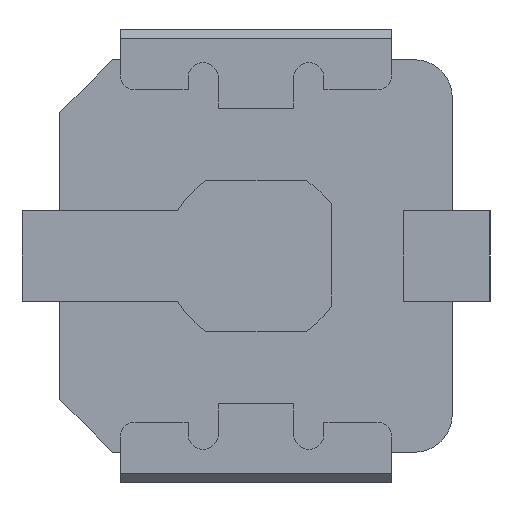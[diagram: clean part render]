
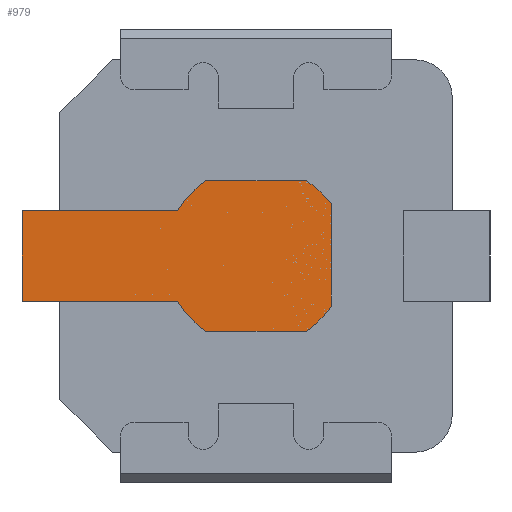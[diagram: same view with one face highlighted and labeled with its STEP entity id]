
A CAD part, front view. The second image highlights one B-rep face of the part: STEP entity #979.
In plain terms, the highlighted planar face has unit normal (0, -1, 0).
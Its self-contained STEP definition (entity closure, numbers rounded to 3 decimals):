
#67 = ORIENTED_EDGE ( 'NONE', *, *, #2326, .T. ) ;
#88 = LINE ( 'NONE', #2034, #2476 ) ;
#111 = VERTEX_POINT ( 'NONE', #1367 ) ;
#172 = VERTEX_POINT ( 'NONE', #1574 ) ;
#222 = EDGE_CURVE ( 'NONE', #2774, #1808, #88, .T. ) ;
#225 = VERTEX_POINT ( 'NONE', #2022 ) ;
#274 = LINE ( 'NONE', #348, #1429 ) ;
#308 = LINE ( 'NONE', #1605, #2679 ) ;
#324 = CARTESIAN_POINT ( 'NONE',  ( -1.55, 0., 0.3 ) ) ;
#339 = LINE ( 'NONE', #2552, #864 ) ;
#348 = CARTESIAN_POINT ( 'NONE',  ( -0.332, 0., -0.5 ) ) ;
#402 = EDGE_CURVE ( 'NONE', #1715, #1568, #274, .T. ) ;
#405 = ORIENTED_EDGE ( 'NONE', *, *, #563, .T. ) ;
#430 = CARTESIAN_POINT ( 'NONE',  ( -0.52, 0., -0.3 ) ) ;
#449 = CIRCLE ( 'NONE', #1312, 0.6 ) ;
#472 = LINE ( 'NONE', #1523, #2858 ) ;
#487 = DIRECTION ( 'NONE',  ( -1., 0., 0. ) ) ;
#555 = ORIENTED_EDGE ( 'NONE', *, *, #1244, .T. ) ;
#563 = EDGE_CURVE ( 'NONE', #2515, #1527, #985, .T. ) ;
#739 = ORIENTED_EDGE ( 'NONE', *, *, #2251, .T. ) ;
#754 = PLANE ( 'NONE',  #2346 ) ;
#819 = DIRECTION ( 'NONE',  ( 0., -1., 0. ) ) ;
#832 = CARTESIAN_POINT ( 'NONE',  ( 0.5, 0., 0.349 ) ) ;
#852 = DIRECTION ( 'NONE',  ( -0.707, 0., 0.707 ) ) ;
#864 = VECTOR ( 'NONE', #2112, 1000. ) ;
#898 = DIRECTION ( 'NONE',  ( 0., -1., 0. ) ) ;
#979 = ADVANCED_FACE ( 'NONE', ( #1739 ), #754, .T. ) ;
#985 = CIRCLE ( 'NONE', #2000, 0.6 ) ;
#1073 = CARTESIAN_POINT ( 'NONE',  ( 0.424, 0., 0.424 ) ) ;
#1108 = ORIENTED_EDGE ( 'NONE', *, *, #222, .T. ) ;
#1135 = DIRECTION ( 'NONE',  ( 0., -1., 0. ) ) ;
#1186 = ORIENTED_EDGE ( 'NONE', *, *, #2754, .T. ) ;
#1194 = ORIENTED_EDGE ( 'NONE', *, *, #1344, .T. ) ;
#1244 = EDGE_CURVE ( 'NONE', #1527, #225, #472, .T. ) ;
#1259 = VERTEX_POINT ( 'NONE', #2025 ) ;
#1312 = AXIS2_PLACEMENT_3D ( 'NONE', #2228, #819, #2456 ) ;
#1344 = EDGE_CURVE ( 'NONE', #111, #1259, #339, .T. ) ;
#1367 = CARTESIAN_POINT ( 'NONE',  ( -0.52, 0., 0.3 ) ) ;
#1371 = DIRECTION ( 'NONE',  ( 1., 0., 0. ) ) ;
#1379 = EDGE_CURVE ( 'NONE', #1568, #2331, #1955, .T. ) ;
#1429 = VECTOR ( 'NONE', #2195, 1000. ) ;
#1469 = AXIS2_PLACEMENT_3D ( 'NONE', #1886, #898, #1371 ) ;
#1523 = CARTESIAN_POINT ( 'NONE',  ( -0.332, 0., 0.5 ) ) ;
#1527 = VERTEX_POINT ( 'NONE', #2623 ) ;
#1562 = AXIS2_PLACEMENT_3D ( 'NONE', #1801, #1135, #2095 ) ;
#1568 = VERTEX_POINT ( 'NONE', #2313 ) ;
#1574 = CARTESIAN_POINT ( 'NONE',  ( 0.5, 0., 0.349 ) ) ;
#1605 = CARTESIAN_POINT ( 'NONE',  ( 0.5, 0., -0.332 ) ) ;
#1657 = CARTESIAN_POINT ( 'NONE',  ( 0., 0., 0. ) ) ;
#1715 = VERTEX_POINT ( 'NONE', #1734 ) ;
#1734 = CARTESIAN_POINT ( 'NONE',  ( -0.332, 0., -0.5 ) ) ;
#1739 = FACE_OUTER_BOUND ( 'NONE', #1865, .T. ) ;
#1740 = VECTOR ( 'NONE', #852, 1000. ) ;
#1765 = EDGE_CURVE ( 'NONE', #172, #2515, #2428, .T. ) ;
#1791 = ORIENTED_EDGE ( 'NONE', *, *, #1765, .T. ) ;
#1794 = DIRECTION ( 'NONE',  ( 1., 0., 0. ) ) ;
#1801 = CARTESIAN_POINT ( 'NONE',  ( 0., 0., 0. ) ) ;
#1808 = VERTEX_POINT ( 'NONE', #430 ) ;
#1834 = ORIENTED_EDGE ( 'NONE', *, *, #1379, .T. ) ;
#1838 = CARTESIAN_POINT ( 'NONE',  ( 0.5, 0., -0.332 ) ) ;
#1865 = EDGE_LOOP ( 'NONE', ( #1194, #67, #1108, #1939, #2668, #1834, #1186, #1791, #405, #555, #739 ) ) ;
#1886 = CARTESIAN_POINT ( 'NONE',  ( 0., 0., 0. ) ) ;
#1903 = CARTESIAN_POINT ( 'NONE',  ( 0., 0., 0. ) ) ;
#1939 = ORIENTED_EDGE ( 'NONE', *, *, #2539, .T. ) ;
#1955 = CIRCLE ( 'NONE', #1469, 0.6 ) ;
#1973 = DIRECTION ( 'NONE',  ( 0., 0., -1. ) ) ;
#2000 = AXIS2_PLACEMENT_3D ( 'NONE', #1657, #2812, #2585 ) ;
#2022 = CARTESIAN_POINT ( 'NONE',  ( -0.332, 0., 0.5 ) ) ;
#2025 = CARTESIAN_POINT ( 'NONE',  ( -1.55, 0., 0.3 ) ) ;
#2034 = CARTESIAN_POINT ( 'NONE',  ( -1.55, 0., -0.3 ) ) ;
#2095 = DIRECTION ( 'NONE',  ( 1., 0., 0. ) ) ;
#2112 = DIRECTION ( 'NONE',  ( -1., 0., 0. ) ) ;
#2195 = DIRECTION ( 'NONE',  ( 1., 0., 0. ) ) ;
#2228 = CARTESIAN_POINT ( 'NONE',  ( 0., 0., 0. ) ) ;
#2251 = EDGE_CURVE ( 'NONE', #225, #111, #449, .T. ) ;
#2313 = CARTESIAN_POINT ( 'NONE',  ( 0.332, 0., -0.5 ) ) ;
#2326 = EDGE_CURVE ( 'NONE', #1259, #2774, #2899, .T. ) ;
#2331 = VERTEX_POINT ( 'NONE', #1838 ) ;
#2346 = AXIS2_PLACEMENT_3D ( 'NONE', #1903, #2838, #2377 ) ;
#2377 = DIRECTION ( 'NONE',  ( 1., 0., 0. ) ) ;
#2428 = LINE ( 'NONE', #832, #1740 ) ;
#2456 = DIRECTION ( 'NONE',  ( 1., 0., 0. ) ) ;
#2476 = VECTOR ( 'NONE', #1794, 1000. ) ;
#2515 = VERTEX_POINT ( 'NONE', #1073 ) ;
#2539 = EDGE_CURVE ( 'NONE', #1808, #1715, #2647, .T. ) ;
#2552 = CARTESIAN_POINT ( 'NONE',  ( -1.55, 0., 0.3 ) ) ;
#2585 = DIRECTION ( 'NONE',  ( 1., 0., 0. ) ) ;
#2612 = VECTOR ( 'NONE', #1973, 1000. ) ;
#2623 = CARTESIAN_POINT ( 'NONE',  ( 0.332, 0., 0.5 ) ) ;
#2647 = CIRCLE ( 'NONE', #1562, 0.6 ) ;
#2652 = CARTESIAN_POINT ( 'NONE',  ( -1.55, 0., -0.3 ) ) ;
#2668 = ORIENTED_EDGE ( 'NONE', *, *, #402, .T. ) ;
#2679 = VECTOR ( 'NONE', #2972, 1000. ) ;
#2754 = EDGE_CURVE ( 'NONE', #2331, #172, #308, .T. ) ;
#2774 = VERTEX_POINT ( 'NONE', #2652 ) ;
#2812 = DIRECTION ( 'NONE',  ( 0., -1., 0. ) ) ;
#2838 = DIRECTION ( 'NONE',  ( 0., -1., 0. ) ) ;
#2858 = VECTOR ( 'NONE', #487, 1000. ) ;
#2899 = LINE ( 'NONE', #324, #2612 ) ;
#2972 = DIRECTION ( 'NONE',  ( 0., 0., 1. ) ) ;
